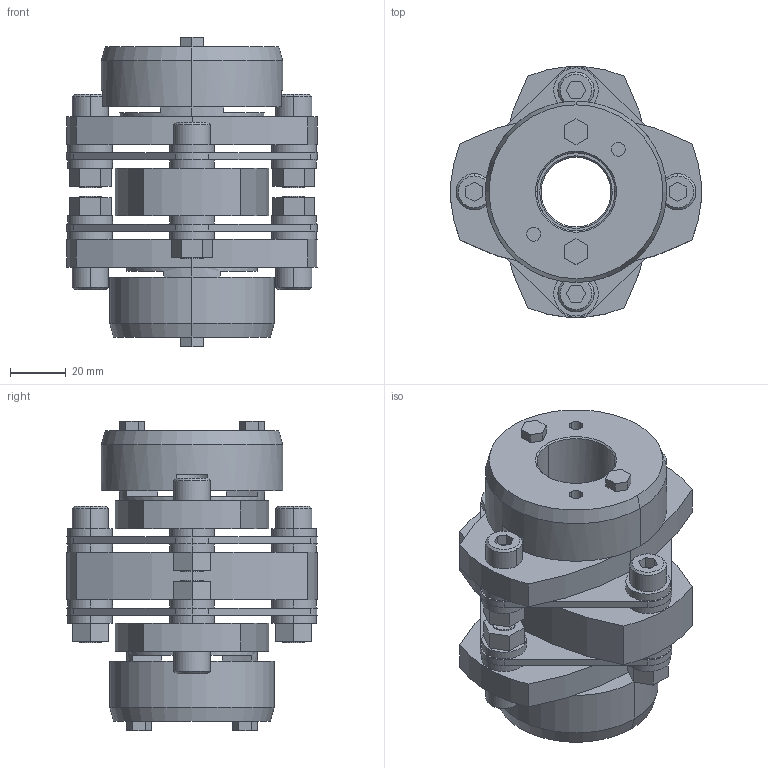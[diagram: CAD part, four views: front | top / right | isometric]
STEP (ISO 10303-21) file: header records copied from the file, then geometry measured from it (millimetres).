
FILE_DESCRIPTION((''),'2;1');
FILE_NAME('LCD-90T7-25×28.stp','2015-11-01T19:28:58',(''),(''),'AutoCAD STEP 2000i','AutoCAD 2000i',', , ');
FILE_SCHEMA(('CONFIG_CONTROL_DESIGN'));
Length unit declared in the file: millimetre
Products named in the file (8): LCD-90T7-25×30; 忣兜1; LC90T7-T030; LC90T7-T025-1; LC90T7-T025; LC90T7-T019-1; LC90T7-T019; LCD90-ITA
Assembly tree (7 placements, depth 2):
  LCD-90T7-25×30
    忣兜1
    LC90T7-T030
    LC90T7-T025-1
    LC90T7-T025
    LC90T7-T019-1
    LC90T7-T019
    LCD90-ITA
Bounding box: 90 x 89.94 x 111 mm (x, y, z)
Volume: 275117.1 mm3; surface area: 74485.4 mm2
Topology: 1 solids, 1 shells, 310 faces, 756 edges, 496 vertices
Faces by surface type: plane 164, cylinder 122, cone 24
Entity records: 9401 total; most frequent: DIRECTION 1680, CARTESIAN_POINT 1570, ORIENTED_EDGE 1512, EDGE_CURVE 756, AXIS2_PLACEMENT_3D 606, VERTEX_POINT 496, VECTOR 468, LINE 468
